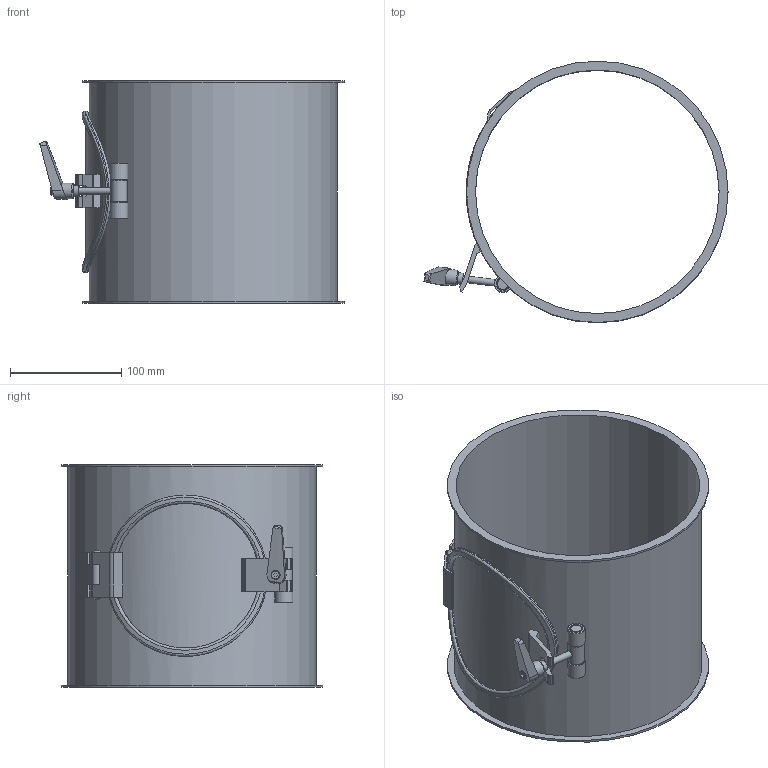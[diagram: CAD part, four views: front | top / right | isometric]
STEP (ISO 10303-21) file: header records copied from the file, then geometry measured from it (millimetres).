
FILE_DESCRIPTION((''),'2;1');
FILE_NAME('U:\Wolfgang\Marcel-3D\fertig\Kapitel 4\2221043.stp','2011-04-21T08:48:04',('TK1'),(''),'Autodesk Inventor 2010','Autodesk Inventor 2010','');
FILE_SCHEMA(('AUTOMOTIVE_DESIGN { 1 0 10303 214 1 1 1 1 }'));
Length unit declared in the file: millimetre
Products named in the file (13): 2221043 (Detailgenauigkeit1); 2221043-1; GelenkDeckel22b; GelenkDeckel1c; Deckel222; Deckel22; GelenkDeckel22a 45; dichtung22; Halterung Deckel22; VerschlussB2; Verschluss1; Verschluss2; Verstellbarer Klemmhebel GN 101-14-M6-SW
Assembly tree (13 placements, depth 3):
  2221043 (Detailgenauigkeit1)
    2221043-1
    GelenkDeckel22b
    GelenkDeckel1c
    Deckel222
      Deckel22
      GelenkDeckel22a 45
      dichtung22
      Halterung Deckel22
    VerschlussB2
      Verschluss1  x2
      Verschluss2
    Verstellbarer Klemmhebel GN 101-14-M6-SW
Bounding box: 273.33 x 235 x 200 mm (x, y, z)
Volume: 332648.3 mm3; surface area: 337737.7 mm2
Topology: 11 solids, 11 shells, 143 faces, 328 edges, 215 vertices
Faces by surface type: plane 67, cylinder 47, cone 18, torus 5, bspline 4, sphere 2
Full cylindrical faces by diameter (mm): 4.8 x1, 6 x5, 8 x1, 10 x3, 11 x2, 14 x1, 15 x1, 16 x2, 115 x1, 130 x1, 135 x1, 145 x1, 219 x1, 223 x1, 235 x2
Entity records: 6031 total; most frequent: CARTESIAN_POINT 2763, DIRECTION 632, ORIENTED_EDGE 532, EDGE_CURVE 266, AXIS2_PLACEMENT_3D 247, VERTEX_POINT 195, EDGE_LOOP 193, VECTOR 138
